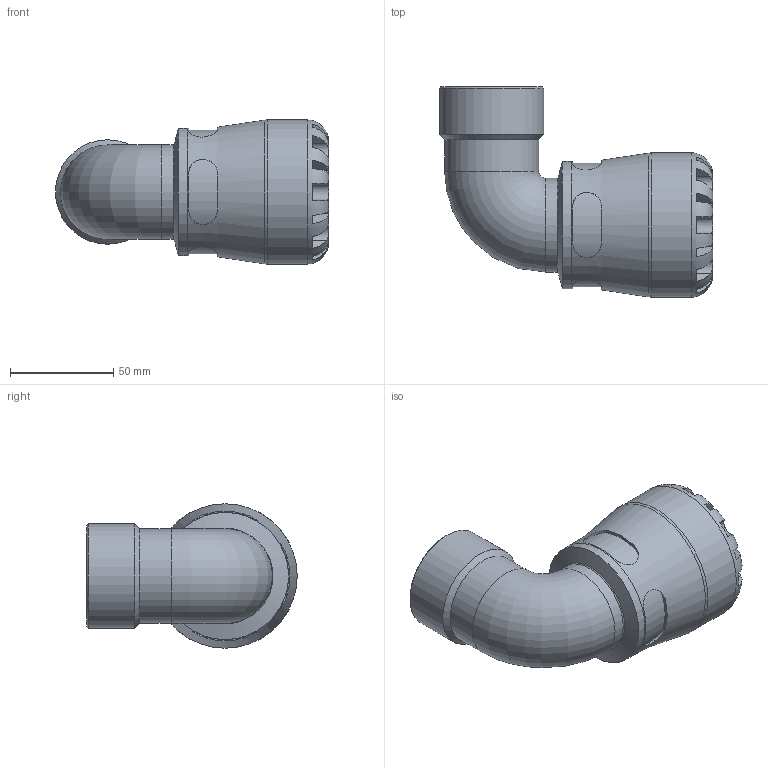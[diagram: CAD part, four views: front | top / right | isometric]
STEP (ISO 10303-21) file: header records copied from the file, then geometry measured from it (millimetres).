
FILE_DESCRIPTION(/* description */ ('PLASSON 90° ELBOW WITH FEMALE INTEGRAL BRASS 40X1.1/4" SERIES 1'),/* implementation_level */ '2;1');
FILE_NAME(/* name */ 'C:\Dropbox\KIMPROJECTS-Inventor\99-16-3568-Processing\S1\1076\107600040013_197600040013.ipt.stp',/* time_stamp */ '2018-05-13T11:02:58+03:00',/* author */ ('KIM'),/* organization */ (''),/* preprocessor_version */ 'ST-DEVELOPER v15.6',/* originating_system */ 'Autodesk Inventor 2015',/* authorisation */ '');
FILE_SCHEMA (('AUTOMOTIVE_DESIGN { 1 0 10303 214 3 1 1 }'));
Length unit declared in the file: millimetre
Products named in the file (1): 107600040013_197600040013
Bounding box: 132.32 x 102 x 70 mm (x, y, z)
Volume: 217698.2 mm3; surface area: 54102.8 mm2
Topology: 1 solids, 1 shells, 108 faces, 265 edges, 164 vertices
Faces by surface type: plane 60, cylinder 37, torus 6, cone 5
Full cylindrical faces by diameter (mm): 35.057 x2, 38.952 x1, 40 x1, 45.574 x2, 50.638 x1, 61.6 x1, 70 x1
Entity records: 3980 total; most frequent: CARTESIAN_POINT 1455, DIRECTION 488, ORIENTED_EDGE 478, EDGE_CURVE 239, AXIS2_PLACEMENT_3D 204, VERTEX_POINT 159, EDGE_LOOP 136, STYLED_ITEM 109
